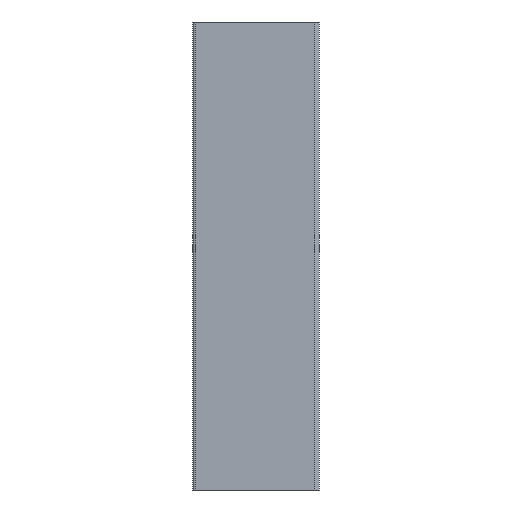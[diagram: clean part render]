
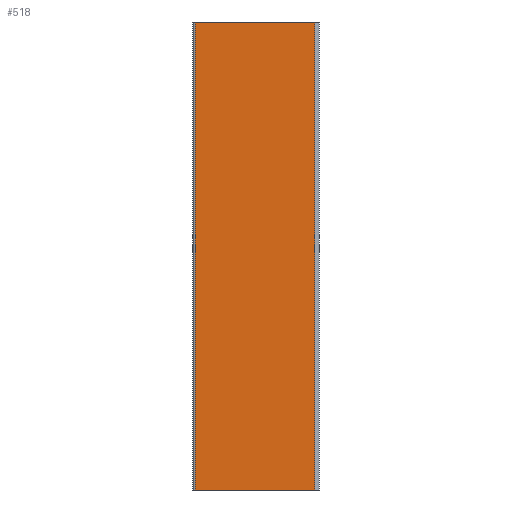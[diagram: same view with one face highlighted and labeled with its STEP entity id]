
A CAD part, front view. The second image highlights one B-rep face of the part: STEP entity #518.
In plain terms, the highlighted planar face has unit normal (0, -1, 0).
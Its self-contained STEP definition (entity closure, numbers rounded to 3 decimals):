
#25=PLANE('',#588);
#51=FACE_OUTER_BOUND('',#78,.T.);
#78=EDGE_LOOP('',(#440,#441,#442,#443));
#98=LINE('',#802,#149);
#127=LINE('',#885,#178);
#128=LINE('',#888,#179);
#129=LINE('',#889,#180);
#149=VECTOR('',#637,10.);
#178=VECTOR('',#728,10.);
#179=VECTOR('',#731,10.);
#180=VECTOR('',#732,10.);
#232=VERTEX_POINT('',#799);
#233=VERTEX_POINT('',#801);
#256=VERTEX_POINT('',#883);
#257=VERTEX_POINT('',#887);
#284=EDGE_CURVE('',#232,#233,#98,.T.);
#326=EDGE_CURVE('',#233,#256,#127,.T.);
#327=EDGE_CURVE('',#257,#232,#128,.T.);
#328=EDGE_CURVE('',#257,#256,#129,.T.);
#440=ORIENTED_EDGE('',*,*,#326,.F.);
#441=ORIENTED_EDGE('',*,*,#284,.F.);
#442=ORIENTED_EDGE('',*,*,#327,.F.);
#443=ORIENTED_EDGE('',*,*,#328,.T.);
#518=ADVANCED_FACE('',(#51),#25,.T.);
#588=AXIS2_PLACEMENT_3D('',#886,#729,#730);
#637=DIRECTION('',(-1.,0.,0.));
#728=DIRECTION('',(0.,0.,1.));
#729=DIRECTION('center_axis',(0.,-1.,0.));
#730=DIRECTION('ref_axis',(0.,0.,-1.));
#731=DIRECTION('',(0.,0.,-1.));
#732=DIRECTION('',(-1.,0.,0.));
#799=CARTESIAN_POINT('',(-0.95,0.,0.));
#801=CARTESIAN_POINT('',(-26.481,0.,0.));
#802=CARTESIAN_POINT('',(0.,0.,0.));
#883=CARTESIAN_POINT('',(-26.481,0.,100.));
#885=CARTESIAN_POINT('',(-26.481,0.,0.));
#886=CARTESIAN_POINT('Origin',(0.,0.,0.));
#887=CARTESIAN_POINT('',(-0.95,0.,100.));
#888=CARTESIAN_POINT('',(-0.95,0.,0.));
#889=CARTESIAN_POINT('',(0.,0.,100.));
